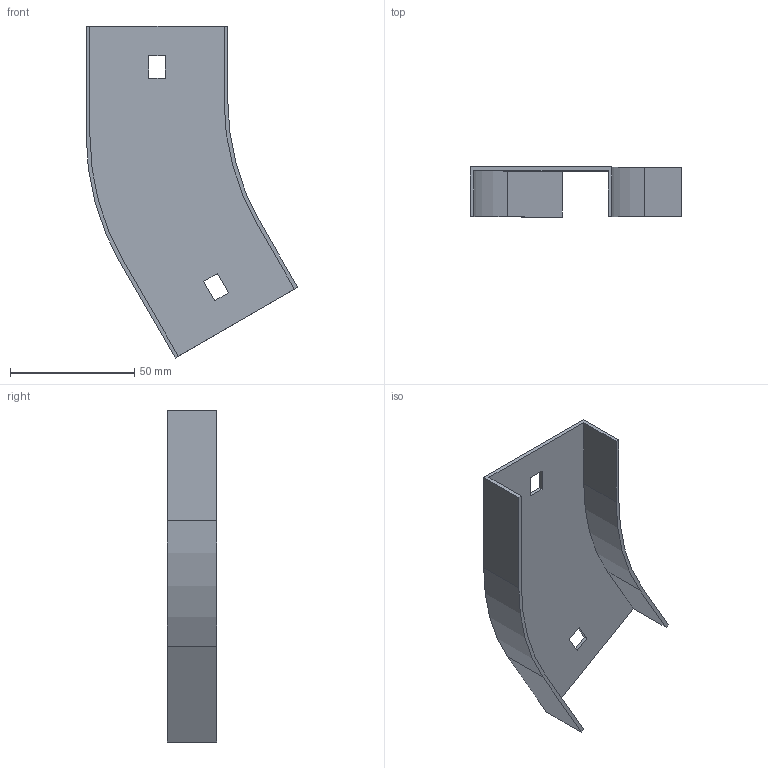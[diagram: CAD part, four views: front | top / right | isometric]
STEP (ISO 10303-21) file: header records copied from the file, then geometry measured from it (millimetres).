
FILE_DESCRIPTION (( 'STEP AP214' ), '1' );
FILE_NAME ('12G1P050.step', '2025-02-21T12:45:09', ( '' ), ( '' ), 'SwSTEP 2.0', 'SolidWorks 2023', '' );
FILE_SCHEMA (( 'AUTOMOTIVE_DESIGN' ));
Length unit declared in the file: millimetre
Products named in the file (1): 12G1P050
Bounding box: 85.2 x 20 x 133.73 mm (x, y, z)
Volume: 17807 mm3; surface area: 24498.2 mm2
Topology: 1 solids, 1 shells, 26 faces, 72 edges, 48 vertices
Faces by surface type: plane 22, cylinder 4
Entity records: 855 total; most frequent: CARTESIAN_POINT 147, ORIENTED_EDGE 144, DIRECTION 134, EDGE_CURVE 72, VECTOR 64, LINE 64, VERTEX_POINT 48, AXIS2_PLACEMENT_3D 35
